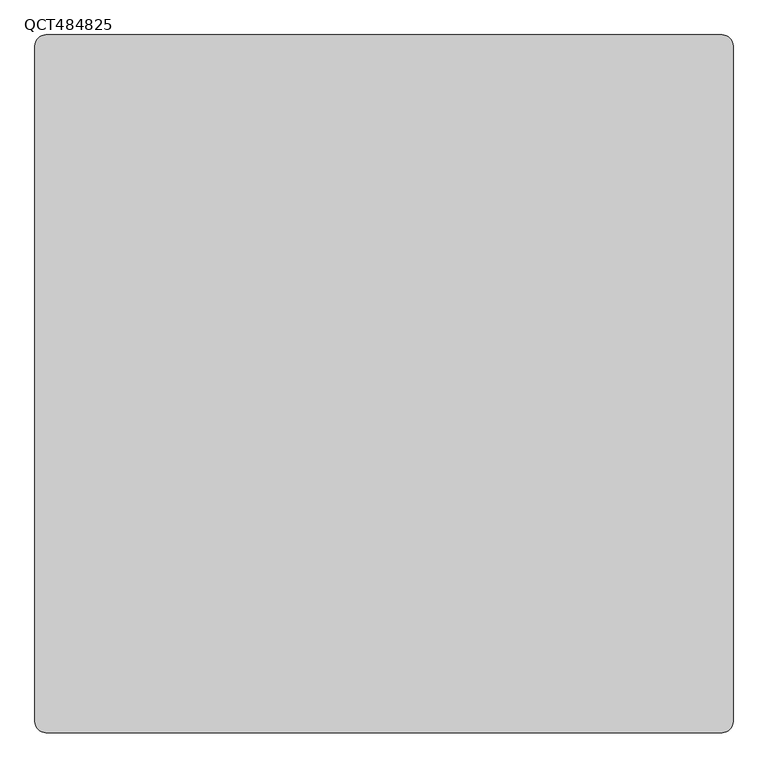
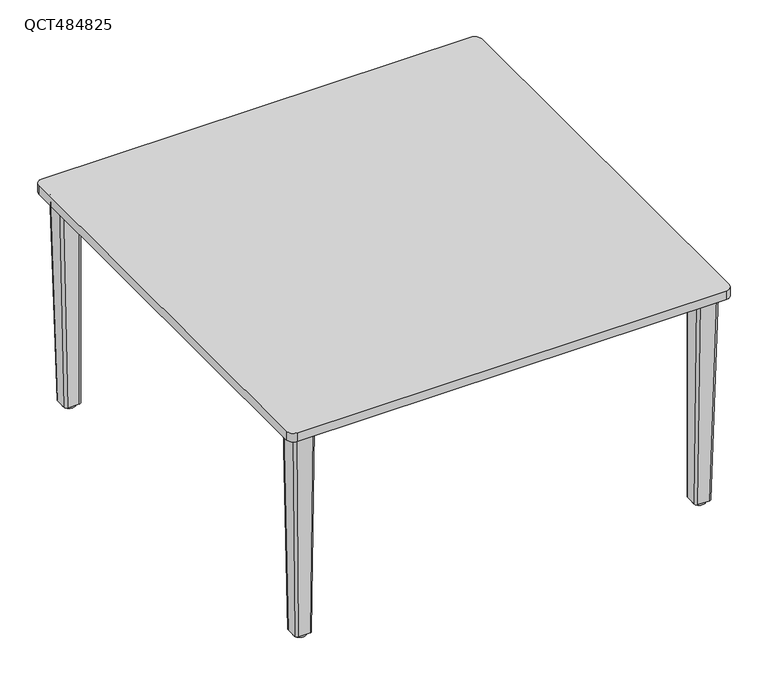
"""IFC4 building model written with IfcOpenShell, lengths in millimetres: furniture geometry, Leland-Quince-Table_Square : QCT484825."""

from ifc_helpers import new_model, si_unit, point, frame, frame_2d, origin, origin_with_axes, place, context, project, spatial, polyline, circle_curve, trimmed, segment, composite_curve, outline, extrude, source, transform, mapped, element, save
from ifc_brep_helpers import plane_surface, cylinder_surface, extruded_surface, advanced_brep


def qct484825_b3ea9676(model_context):
    return source(origin(), model_context, "Body", "SolidModel", [
        advanced_brep(
        [(578.6299122, -527.8482078, 604.8487443), (534.1799122, -527.8482078, 604.8487443), (527.8299122, -534.1982078, 604.8487443), (527.8299122, -578.6482078, 604.8487443), (534.1799122, -584.9982078, 604.8487443), (578.6299122, -584.9982078, 604.8487443), (584.9799122, -578.6482078, 604.8487443), (584.9799122, -534.1982078, 604.8487443), (566.3392552, -527.8482078, 9.5377), (572.6892552, -534.1982078, 9.5377), (572.6892552, -566.3651364, 9.5377), (566.3392552, -572.7151364, 9.5377), (534.1799122, -572.7151364, 9.5377), (527.8299122, -566.3651364, 9.5377), (527.8299122, -534.1982078, 9.5377), (534.1799122, -527.8482078, 9.5377)],
        [
            (0, 1),
            (1, 2, circle_curve(frame((534.1799122, -534.1982078, 604.8487443), z_axis=(0.0, 0.0, 1.0), x_axis=(-1.0, 0.0, 0.0)), 6.35)),
            (2, 3),
            (3, 4, circle_curve(frame((534.1799122, -578.6482078, 604.8487443), z_axis=(0.0, 0.0, 1.0), x_axis=(-1.0, 0.0, 0.0)), 6.35)),
            (4, 5),
            (5, 6, circle_curve(frame((578.6299122, -578.6482078, 604.8487443), z_axis=(0.0, 0.0, 1.0), x_axis=(-1.0, 0.0, 0.0)), 6.35)),
            (6, 7),
            (7, 0, circle_curve(frame((578.6299122, -534.1982078, 604.8487443), z_axis=(0.0, 0.0, 1.0), x_axis=(-1.0, 0.0, 0.0)), 6.35)),
            (8, 9, circle_curve(frame((566.3392552, -534.1982078, 9.5377), z_axis=(0.0, 0.0, -1.0), x_axis=(-1.0, 0.0, 0.0)), 6.35)),
            (9, 10),
            (10, 11, circle_curve(frame((566.3392552, -566.3651364, 9.5377), z_axis=(0.0, 0.0, -1.0), x_axis=(-1.0, 0.0, 0.0)), 6.35)),
            (11, 12),
            (12, 13, circle_curve(frame((534.1799122, -566.3651364, 9.5377), z_axis=(0.0, 0.0, -1.0), x_axis=(-1.0, 0.0, 0.0)), 6.35)),
            (13, 14),
            (14, 15, circle_curve(frame((534.1799122, -534.1982078, 9.5377), z_axis=(0.0, 0.0, -1.0), x_axis=(-1.0, 0.0, 0.0)), 6.35)),
            (15, 8),
            (8, 0),
            (7, 9),
            (6, 10),
            (5, 11),
            (4, 12),
            (3, 13),
            (2, 14),
            (1, 15),
        ],
        [
            plane_surface(frame((556.4049122, -556.4232078, 604.8487443), z_axis=(0.0, 0.0, 1.0), x_axis=(1.0, 0.0, 0.0))),
            plane_surface(frame((550.2595837, -550.2816721, 9.5377), z_axis=(0.0, 0.0, -1.0), x_axis=(1.0, 0.0, 0.0))),
            extruded_surface(trimmed(circle_curve(frame((566.3392552, -534.1982078, 9.5377), z_axis=(0.0, 0.0, 1.0), x_axis=(-1.0, 0.0, 0.0)), 6.35), [point((572.6892552, -534.1982078, 9.5377))], [point((566.3392552, -527.8482078, 9.5377))], True, "CARTESIAN"), (12.29065700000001, 0.0, 595.3110443), 595.4379058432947),
            plane_surface(frame((572.6892552, -550.2816721, 9.5377), z_axis=(0.999786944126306, 0.0, -0.020641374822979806), x_axis=(0.0, 1.0, 0.0))),
            extruded_surface(trimmed(circle_curve(frame((566.3392552, -566.3651364, 9.5377), z_axis=(0.0, 0.0, 1.0), x_axis=(-1.0, 0.0, 0.0)), 6.35), [point((566.3392552, -572.7151364, 9.5377))], [point((572.6892552, -566.3651364, 9.5377))], True, "CARTESIAN"), (12.29065700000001, -12.28307140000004, 595.3110443), 595.5645838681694),
            plane_surface(frame((550.2595837, -572.7151364, 9.5377), z_axis=(0.0, -0.9997872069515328, -0.02062864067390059), x_axis=(1.0, 0.0, 0.0))),
            extruded_surface(trimmed(circle_curve(frame((534.1799122, -566.3651364, 9.5377), z_axis=(0.0, 0.0, 1.0), x_axis=(-1.0, 0.0, 0.0)), 6.35), [point((527.8299122, -566.3651364, 9.5377))], [point((534.1799122, -572.7151364, 9.5377))], True, "CARTESIAN"), (0.0, -12.28307140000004, 595.3110443), 595.4377493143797),
            plane_surface(frame((527.8299122, -550.2816721, 9.5377), z_axis=(-1.0, 0.0, 0.0), x_axis=(0.0, -1.0, 0.0))),
            cylinder_surface(frame((534.1799122, -534.1982078, 9.5377), z_axis=(0.0, 0.0, 1.0), x_axis=(-1.0, 0.0, 0.0)), 6.35),
            plane_surface(frame((550.2595837, -527.8482078, 9.5377), z_axis=(0.0, 1.0, 0.0), x_axis=(-1.0, 0.0, 0.0))),
        ],
        [
            (0, [[1, 2, 3, 4, 5, 6, 7, 8]]),
            (1, [[9, 10, 11, 12, 13, 14, 15, 16]]),
            (2, [[-9, 17, -8, 18]]),
            (3, [[-10, -18, -7, 19]]),
            (4, [[-11, -19, -6, 20]]),
            (5, [[-12, -20, -5, 21]]),
            (6, [[-13, -21, -4, 22]]),
            (7, [[-14, -22, -3, 23]]),
            (8, [[-15, -23, -2, 24]]),
            (9, [[-16, -24, -1, -17]]),
        ],
    ),
        advanced_brep(
        [(-578.6299122, -527.8482078, 604.8487443), (-584.9799122, -534.1982078, 604.8487443), (-584.9799122, -578.6482078, 604.8487443), (-578.6299122, -584.9982078, 604.8487443), (-534.1799122, -584.9982078, 604.8487443), (-527.8299122, -578.6482078, 604.8487443), (-527.8299122, -534.1982078, 604.8487443), (-534.1799122, -527.8482078, 604.8487443), (-566.3392552, -527.8482078, 9.5377), (-534.1799122, -527.8482078, 9.5377), (-527.8299122, -534.1982078, 9.5377), (-527.8299122, -566.3651364, 9.5377), (-534.1799122, -572.7151364, 9.5377), (-566.3392552, -572.7151364, 9.5377), (-572.6892552, -566.3651364, 9.5377), (-572.6892552, -534.1982078, 9.5377)],
        [
            (0, 1, circle_curve(frame((-578.6299122, -534.1982078, 604.8487443), z_axis=(0.0, 0.0, 1.0), x_axis=(1.0, 0.0, 0.0)), 6.35)),
            (1, 2),
            (2, 3, circle_curve(frame((-578.6299122, -578.6482078, 604.8487443), z_axis=(0.0, 0.0, 1.0), x_axis=(1.0, 0.0, 0.0)), 6.35)),
            (3, 4),
            (4, 5, circle_curve(frame((-534.1799122, -578.6482078, 604.8487443), z_axis=(0.0, 0.0, 1.0), x_axis=(1.0, 0.0, 0.0)), 6.35)),
            (5, 6),
            (6, 7, circle_curve(frame((-534.1799122, -534.1982078, 604.8487443), z_axis=(0.0, 0.0, 1.0), x_axis=(0.0, 1.0, 0.0)), 6.35)),
            (7, 0),
            (8, 9),
            (9, 10, circle_curve(frame((-534.1799122, -534.1982078, 9.5377), z_axis=(0.0, 0.0, -1.0), x_axis=(0.0, 1.0, 0.0)), 6.35)),
            (10, 11),
            (11, 12, circle_curve(frame((-534.1799122, -566.3651364, 9.5377), z_axis=(0.0, 0.0, -1.0), x_axis=(1.0, 0.0, 0.0)), 6.35)),
            (12, 13),
            (13, 14, circle_curve(frame((-566.3392552, -566.3651364, 9.5377), z_axis=(0.0, 0.0, -1.0), x_axis=(1.0, 0.0, 0.0)), 6.35)),
            (14, 15),
            (15, 8, circle_curve(frame((-566.3392552, -534.1982078, 9.5377), z_axis=(0.0, 0.0, -1.0), x_axis=(1.0, 0.0, 0.0)), 6.35)),
            (15, 1),
            (0, 8),
            (14, 2),
            (13, 3),
            (12, 4),
            (11, 5),
            (10, 6),
            (9, 7),
        ],
        [
            plane_surface(frame((-556.4049122, -556.4232078, 604.8487443), z_axis=(0.0, 0.0, 1.0), x_axis=(1.0, 0.0, 0.0))),
            plane_surface(frame((-550.2595837, -550.2816721, 9.5377), z_axis=(0.0, 0.0, -1.0), x_axis=(1.0, 0.0, 0.0))),
            extruded_surface(trimmed(circle_curve(frame((-566.3392552, -534.1982078, 9.5377), z_axis=(0.0, 0.0, 1.0), x_axis=(1.0, 0.0, 0.0)), 6.35), [point((-566.3392552, -527.8482078, 9.5377))], [point((-572.6892552, -534.1982078, 9.5377))], True, "CARTESIAN"), (-12.29065700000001, 0.0, 595.3110443), 595.4379058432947),
            plane_surface(frame((-572.6892552, -550.2816721, 9.5377), z_axis=(-0.999786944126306, 0.0, -0.020641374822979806), x_axis=(0.0, -1.0, 0.0))),
            extruded_surface(trimmed(circle_curve(frame((-566.3392552, -566.3651364, 9.5377), z_axis=(0.0, 0.0, 1.0), x_axis=(1.0, 0.0, 0.0)), 6.35), [point((-572.6892552, -566.3651364, 9.5377))], [point((-566.3392552, -572.7151364, 9.5377))], True, "CARTESIAN"), (-12.29065700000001, -12.28307140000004, 595.3110443), 595.5645838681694),
            plane_surface(frame((-550.2595837, -572.7151364, 9.5377), z_axis=(0.0, -0.9997872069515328, -0.020628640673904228), x_axis=(1.0, 0.0, 0.0))),
            extruded_surface(trimmed(circle_curve(frame((-534.1799122, -566.3651364, 9.5377), z_axis=(0.0, 0.0, 1.0), x_axis=(1.0, 0.0, 0.0)), 6.35), [point((-534.1799122, -572.7151364, 9.5377))], [point((-527.8299122, -566.3651364, 9.5377))], True, "CARTESIAN"), (0.0, -12.28307140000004, 595.3110443), 595.4377493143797),
            plane_surface(frame((-527.8299122, -550.2816721, 9.5377), z_axis=(1.0, 0.0, 0.0), x_axis=(0.0, 1.0, 0.0))),
            cylinder_surface(frame((-534.1799122, -534.1982078, 9.5377), z_axis=(0.0, 0.0, 1.0), x_axis=(0.0, 1.0, 0.0)), 6.35),
            plane_surface(frame((-550.2595837, -527.8482078, 9.5377), z_axis=(0.0, 1.0, 0.0), x_axis=(-1.0, 0.0, 0.0))),
        ],
        [
            (0, [[1, 2, 3, 4, 5, 6, 7, 8]]),
            (1, [[9, 10, 11, 12, 13, 14, 15, 16]]),
            (2, [[-16, 17, -1, 18]]),
            (3, [[-15, 19, -2, -17]]),
            (4, [[-14, 20, -3, -19]]),
            (5, [[-13, 21, -4, -20]]),
            (6, [[-12, 22, -5, -21]]),
            (7, [[-11, 23, -6, -22]]),
            (8, [[-10, 24, -7, -23]]),
            (9, [[-9, -18, -8, -24]]),
        ],
    ),
        advanced_brep(
        [(578.6299122, 527.8482078, 604.8487443), (584.9799122, 534.1982078, 604.8487443), (584.9799122, 578.6482078, 604.8487443), (578.6299122, 584.9982078, 604.8487443), (534.1799122, 584.9982078, 604.8487443), (527.8299122, 578.6482078, 604.8487443), (527.8299122, 534.1982078, 604.8487443), (534.1799122, 527.8482078, 604.8487443), (566.3392552, 527.8482078, 9.5377), (534.1799122, 527.8482078, 9.5377), (527.8299122, 534.1982078, 9.5377), (527.8299122, 566.3651364, 9.5377), (534.1799122, 572.7151364, 9.5377), (566.3392552, 572.7151364, 9.5377), (572.6892552, 566.3651364, 9.5377), (572.6892552, 534.1982078, 9.5377)],
        [
            (0, 1, circle_curve(frame((578.6299122, 534.1982078, 604.8487443), z_axis=(0.0, 0.0, 1.0), x_axis=(-1.0, 0.0, 0.0)), 6.35)),
            (1, 2),
            (2, 3, circle_curve(frame((578.6299122, 578.6482078, 604.8487443), z_axis=(0.0, 0.0, 1.0), x_axis=(-1.0, 0.0, 0.0)), 6.35)),
            (3, 4),
            (4, 5, circle_curve(frame((534.1799122, 578.6482078, 604.8487443), z_axis=(0.0, 0.0, 1.0), x_axis=(-1.0, 0.0, 0.0)), 6.35)),
            (5, 6),
            (6, 7, circle_curve(frame((534.1799122, 534.1982078, 604.8487443), z_axis=(0.0, 0.0, 1.0), x_axis=(0.0, -1.0, 0.0)), 6.35)),
            (7, 0),
            (8, 9),
            (9, 10, circle_curve(frame((534.1799122, 534.1982078, 9.5377), z_axis=(0.0, 0.0, -1.0), x_axis=(0.0, -1.0, 0.0)), 6.35)),
            (10, 11),
            (11, 12, circle_curve(frame((534.1799122, 566.3651364, 9.5377), z_axis=(0.0, 0.0, -1.0), x_axis=(-1.0, 0.0, 0.0)), 6.35)),
            (12, 13),
            (13, 14, circle_curve(frame((566.3392552, 566.3651364, 9.5377), z_axis=(0.0, 0.0, -1.0), x_axis=(-1.0, 0.0, 0.0)), 6.35)),
            (14, 15),
            (15, 8, circle_curve(frame((566.3392552, 534.1982078, 9.5377), z_axis=(0.0, 0.0, -1.0), x_axis=(-1.0, 0.0, 0.0)), 6.35)),
            (15, 1),
            (0, 8),
            (14, 2),
            (13, 3),
            (12, 4),
            (11, 5),
            (10, 6),
            (9, 7),
        ],
        [
            plane_surface(frame((556.4049122, 556.4232078, 604.8487443), z_axis=(0.0, 0.0, 1.0), x_axis=(-1.0, 0.0, 0.0))),
            plane_surface(frame((550.2595837, 550.2816721, 9.5377), z_axis=(0.0, 0.0, -1.0), x_axis=(-1.0, 0.0, 0.0))),
            extruded_surface(trimmed(circle_curve(frame((566.3392552, 534.1982078, 9.5377), z_axis=(0.0, 0.0, 1.0), x_axis=(-1.0, 0.0, 0.0)), 6.35), [point((566.3392552, 527.8482078, 9.5377))], [point((572.6892552, 534.1982078, 9.5377))], True, "CARTESIAN"), (12.29065700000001, 0.0, 595.3110443), 595.4379058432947),
            plane_surface(frame((572.6892552, 550.2816721, 9.5377), z_axis=(0.999786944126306, 0.0, -0.020641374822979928), x_axis=(0.0, 1.0, 0.0))),
            extruded_surface(trimmed(circle_curve(frame((566.3392552, 566.3651364, 9.5377), z_axis=(0.0, 0.0, 1.0), x_axis=(-1.0, 0.0, 0.0)), 6.35), [point((572.6892552, 566.3651364, 9.5377))], [point((566.3392552, 572.7151364, 9.5377))], True, "CARTESIAN"), (12.29065700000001, 12.28307140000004, 595.3110443), 595.5645838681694),
            plane_surface(frame((550.2595837, 572.7151364, 9.5377), z_axis=(0.0, 0.9997872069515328, -0.02062864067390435), x_axis=(-1.0, 0.0, 0.0))),
            extruded_surface(trimmed(circle_curve(frame((534.1799122, 566.3651364, 9.5377), z_axis=(0.0, 0.0, 1.0), x_axis=(-1.0, 0.0, 0.0)), 6.35), [point((534.1799122, 572.7151364, 9.5377))], [point((527.8299122, 566.3651364, 9.5377))], True, "CARTESIAN"), (0.0, 12.28307140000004, 595.3110443), 595.4377493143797),
            plane_surface(frame((527.8299122, 550.2816721, 9.5377), z_axis=(-1.0, 0.0, 0.0), x_axis=(0.0, -1.0, 0.0))),
            cylinder_surface(frame((534.1799122, 534.1982078, 9.5377), z_axis=(0.0, 0.0, 1.0), x_axis=(0.0, -1.0, 0.0)), 6.35),
            plane_surface(frame((550.2595837, 527.8482078, 9.5377), z_axis=(0.0, -1.0, 0.0), x_axis=(1.0, 0.0, 0.0))),
        ],
        [
            (0, [[1, 2, 3, 4, 5, 6, 7, 8]]),
            (1, [[9, 10, 11, 12, 13, 14, 15, 16]]),
            (2, [[-16, 17, -1, 18]]),
            (3, [[-15, 19, -2, -17]]),
            (4, [[-14, 20, -3, -19]]),
            (5, [[-13, 21, -4, -20]]),
            (6, [[-12, 22, -5, -21]]),
            (7, [[-11, 23, -6, -22]]),
            (8, [[-10, 24, -7, -23]]),
            (9, [[-9, -18, -8, -24]]),
        ],
    ),
        extrude(outline(composite_curve([segment(trimmed(circle_curve(frame_2d((-550.2595837, 550.2816721)), 16.66875), [point((-566.9283337, 550.2816721))], [point((-533.5908337, 550.2816721))], False, "CARTESIAN"), True, "CONTINUOUS"), segment(trimmed(circle_curve(frame_2d((-550.2595837, 550.2816721)), 16.66875), [point((-533.5908337, 550.2816721))], [point((-566.9283337, 550.2816721))], False, "CARTESIAN"), True, "CONTINUOUS")], self_intersect=False)), origin_with_axes(), (0.0, 0.0, 1.0), 9.5377),
        extrude(outline(composite_curve([segment(trimmed(circle_curve(frame_2d((550.2595837, 550.2816721)), 16.66875), [point((533.5908337, 550.2816721))], [point((566.9283337, 550.2816721))], False, "CARTESIAN"), True, "CONTINUOUS"), segment(trimmed(circle_curve(frame_2d((550.2595837, 550.2816721)), 16.66875), [point((566.9283337, 550.2816721))], [point((533.5908337, 550.2816721))], False, "CARTESIAN"), True, "CONTINUOUS")], self_intersect=False)), origin_with_axes(), (0.0, 0.0, 1.0), 9.5377),
        extrude(outline(composite_curve([segment(trimmed(circle_curve(frame_2d((-550.2595837, -550.2816721)), 16.66875), [point((-566.9283337, -550.2816721))], [point((-533.5908337, -550.2816721))], False, "CARTESIAN"), True, "CONTINUOUS"), segment(trimmed(circle_curve(frame_2d((-550.2595837, -550.2816721)), 16.66875), [point((-533.5908337, -550.2816721))], [point((-566.9283337, -550.2816721))], False, "CARTESIAN"), True, "CONTINUOUS")], self_intersect=False)), origin_with_axes(), (0.0, 0.0, 1.0), 9.5377),
        extrude(outline(composite_curve([segment(trimmed(circle_curve(frame_2d((550.2595837, -550.2816721)), 16.66875), [point((533.5908337, -550.2816721))], [point((566.9283337, -550.2816721))], False, "CARTESIAN"), True, "CONTINUOUS"), segment(trimmed(circle_curve(frame_2d((550.2595837, -550.2816721)), 16.66875), [point((566.9283337, -550.2816721))], [point((533.5908337, -550.2816721))], False, "CARTESIAN"), True, "CONTINUOUS")], self_intersect=False)), origin_with_axes(), (0.0, 0.0, 1.0), 9.5377),
        extrude(outline(polyline([(-480.21875, 581.81875), (-480.21875, 480.21875), (-581.81875, 480.21875), (-581.81875, 581.81875), (-480.21875, 581.81875)])), frame((0.0, 0.0, 604.8487443), z_axis=(0.0, 0.0, 1.0), x_axis=(1.0, 0.0, 0.0)), (0.0, 0.0, 1.0), 4.7625),
        extrude(outline(polyline([(480.21875, 581.81875), (581.81875, 581.81875), (581.81875, 480.21875), (480.21875, 480.21875), (480.21875, 581.81875)])), frame((0.0, 0.0, 604.8487443), z_axis=(0.0, 0.0, 1.0), x_axis=(1.0, 0.0, 0.0)), (0.0, 0.0, 1.0), 4.7625),
        extrude(outline(polyline([(-480.21875, -581.81875), (-581.81875, -581.81875), (-581.81875, -480.21875), (-480.21875, -480.21875), (-480.21875, -581.81875)])), frame((0.0, 0.0, 604.8487443), z_axis=(0.0, 0.0, 1.0), x_axis=(1.0, 0.0, 0.0)), (0.0, 0.0, 1.0), 4.7625),
        extrude(outline(polyline([(480.21875, -581.81875), (480.21875, -480.21875), (581.81875, -480.21875), (581.81875, -581.81875), (480.21875, -581.81875)])), frame((0.0, 0.0, 604.8487443), z_axis=(0.0, 0.0, 1.0), x_axis=(1.0, 0.0, 0.0)), (0.0, 0.0, 1.0), 4.7625),
        advanced_brep(
        [(-578.6299122, 527.8482078, 604.8487443), (-534.1799122, 527.8482078, 604.8487443), (-527.8299122, 534.1982078, 604.8487443), (-527.8299122, 578.6482078, 604.8487443), (-534.1799122, 584.9982078, 604.8487443), (-578.6299122, 584.9982078, 604.8487443), (-584.9799122, 578.6482078, 604.8487443), (-584.9799122, 534.1982078, 604.8487443), (-566.3392552, 527.8482078, 9.5377), (-572.6892552, 534.1982078, 9.5377), (-572.6892552, 566.3651364, 9.5377), (-566.3392552, 572.7151364, 9.5377), (-534.1799122, 572.7151364, 9.5377), (-527.8299122, 566.3651364, 9.5377), (-527.8299122, 534.1982078, 9.5377), (-534.1799122, 527.8482078, 9.5377)],
        [
            (0, 1),
            (1, 2, circle_curve(frame((-534.1799122, 534.1982078, 604.8487443), z_axis=(0.0, 0.0, 1.0), x_axis=(1.0, 0.0, 0.0)), 6.35)),
            (2, 3),
            (3, 4, circle_curve(frame((-534.1799122, 578.6482078, 604.8487443), z_axis=(0.0, 0.0, 1.0), x_axis=(1.0, 0.0, 0.0)), 6.35)),
            (4, 5),
            (5, 6, circle_curve(frame((-578.6299122, 578.6482078, 604.8487443), z_axis=(0.0, 0.0, 1.0), x_axis=(1.0, 0.0, 0.0)), 6.35)),
            (6, 7),
            (7, 0, circle_curve(frame((-578.6299122, 534.1982078, 604.8487443), z_axis=(0.0, 0.0, 1.0), x_axis=(1.0, 0.0, 0.0)), 6.35)),
            (8, 9, circle_curve(frame((-566.3392552, 534.1982078, 9.5377), z_axis=(0.0, 0.0, -1.0), x_axis=(1.0, 0.0, 0.0)), 6.35)),
            (9, 10),
            (10, 11, circle_curve(frame((-566.3392552, 566.3651364, 9.5377), z_axis=(0.0, 0.0, -1.0), x_axis=(1.0, 0.0, 0.0)), 6.35)),
            (11, 12),
            (12, 13, circle_curve(frame((-534.1799122, 566.3651364, 9.5377), z_axis=(0.0, 0.0, -1.0), x_axis=(1.0, 0.0, 0.0)), 6.35)),
            (13, 14),
            (14, 15, circle_curve(frame((-534.1799122, 534.1982078, 9.5377), z_axis=(0.0, 0.0, -1.0), x_axis=(1.0, 0.0, 0.0)), 6.35)),
            (15, 8),
            (8, 0),
            (7, 9),
            (6, 10),
            (5, 11),
            (4, 12),
            (3, 13),
            (2, 14),
            (1, 15),
        ],
        [
            plane_surface(frame((-556.4049122, 556.4232078, 604.8487443), z_axis=(0.0, 0.0, 1.0), x_axis=(-1.0, 0.0, 0.0))),
            plane_surface(frame((-550.2595837, 550.2816721, 9.5377), z_axis=(0.0, 0.0, -1.0), x_axis=(-1.0, 0.0, 0.0))),
            extruded_surface(trimmed(circle_curve(frame((-566.3392552, 534.1982078, 9.5377), z_axis=(0.0, 0.0, 1.0), x_axis=(1.0, 0.0, 0.0)), 6.35), [point((-572.6892552, 534.1982078, 9.5377))], [point((-566.3392552, 527.8482078, 9.5377))], True, "CARTESIAN"), (-12.29065700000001, 0.0, 595.3110443), 595.4379058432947),
            plane_surface(frame((-572.6892552, 550.2816721, 9.5377), z_axis=(-0.999786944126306, 0.0, -0.020641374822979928), x_axis=(0.0, -1.0, 0.0))),
            extruded_surface(trimmed(circle_curve(frame((-566.3392552, 566.3651364, 9.5377), z_axis=(0.0, 0.0, 1.0), x_axis=(1.0, 0.0, 0.0)), 6.35), [point((-566.3392552, 572.7151364, 9.5377))], [point((-572.6892552, 566.3651364, 9.5377))], True, "CARTESIAN"), (-12.29065700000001, 12.28307140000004, 595.3110443), 595.5645838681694),
            plane_surface(frame((-550.2595837, 572.7151364, 9.5377), z_axis=(0.0, 0.9997872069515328, -0.02062864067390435), x_axis=(-1.0, 0.0, 0.0))),
            extruded_surface(trimmed(circle_curve(frame((-534.1799122, 566.3651364, 9.5377), z_axis=(0.0, 0.0, 1.0), x_axis=(1.0, 0.0, 0.0)), 6.35), [point((-527.8299122, 566.3651364, 9.5377))], [point((-534.1799122, 572.7151364, 9.5377))], True, "CARTESIAN"), (0.0, 12.28307140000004, 595.3110443), 595.4377493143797),
            plane_surface(frame((-527.8299122, 550.2816721, 9.5377), z_axis=(1.0, 0.0, 0.0), x_axis=(0.0, 1.0, 0.0))),
            cylinder_surface(frame((-534.1799122, 534.1982078, 9.5377), z_axis=(0.0, 0.0, 1.0), x_axis=(1.0, 0.0, 0.0)), 6.35),
            plane_surface(frame((-550.2595837, 527.8482078, 9.5377), z_axis=(0.0, -1.0, 0.0), x_axis=(1.0, 0.0, 0.0))),
        ],
        [
            (0, [[1, 2, 3, 4, 5, 6, 7, 8]]),
            (1, [[9, 10, 11, 12, 13, 14, 15, 16]]),
            (2, [[-9, 17, -8, 18]]),
            (3, [[-10, -18, -7, 19]]),
            (4, [[-11, -19, -6, 20]]),
            (5, [[-12, -20, -5, 21]]),
            (6, [[-13, -21, -4, 22]]),
            (7, [[-14, -22, -3, 23]]),
            (8, [[-15, -23, -2, 24]]),
            (9, [[-16, -24, -1, -17]]),
        ],
    ),
        extrude(outline(composite_curve([segment(trimmed(circle_curve(frame_2d((590.55, 590.55)), 19.05), [point((590.55, 609.6))], [point((609.6, 590.55))], False, "CARTESIAN"), True, "CONTINUOUS"), segment(polyline([(609.6, 590.55), (609.6, -590.55)]), True, "CONTINUOUS"), segment(trimmed(circle_curve(frame_2d((590.55, -590.55)), 19.05), [point((609.6, -590.55))], [point((590.55, -609.6))], False, "CARTESIAN"), True, "CONTINUOUS"), segment(polyline([(590.55, -609.6), (-590.55, -609.6)]), True, "CONTINUOUS"), segment(trimmed(circle_curve(frame_2d((-590.55, -590.55)), 19.05), [point((-590.55, -609.6))], [point((-609.6, -590.55))], False, "CARTESIAN"), True, "CONTINUOUS"), segment(polyline([(-609.6, -590.55), (-609.6, 590.55)]), True, "CONTINUOUS"), segment(trimmed(circle_curve(frame_2d((-590.55, 590.55)), 19.05), [point((-609.6, 590.55))], [point((-590.55, 609.6))], False, "CARTESIAN"), True, "CONTINUOUS"), segment(polyline([(-590.55, 609.6), (590.55, 609.6)]), True, "CONTINUOUS")], self_intersect=False)), frame((0.0, 0.0, 609.6112443), z_axis=(0.0, 0.0, 1.0), x_axis=(1.0, 0.0, 0.0)), (0.0, 0.0, 1.0), 25.3887557),
    ])


if __name__ == "__main__":
    model = new_model("IFC4")
    model_context = context("Model", 3, world=origin())
    ifc_project = project(units=[si_unit("LENGTHUNIT", "METRE", prefix="MILLI")], contexts=[model_context])
    site = spatial("IfcSite", under=ifc_project)
    building = spatial("IfcBuilding", under=site)
    placement = place(None, origin())
    qct484825_shape = qct484825_b3ea9676(model_context)
    element("IfcFurniture", 1, ObjectType="Leland-Quince-Table_Square : QCT484825", at=placement, inside=building, context=model_context, shape_type="MappedRepresentation", body=[
        mapped(qct484825_shape, transform((0.0, 0.0, 0.0), x_axis=(1.0, 0.0, 0.0), y_axis=(0.0, 1.0, 0.0), z_axis=(0.0, 0.0, 1.0))),
    ])
    save(model, "model.ifc")
